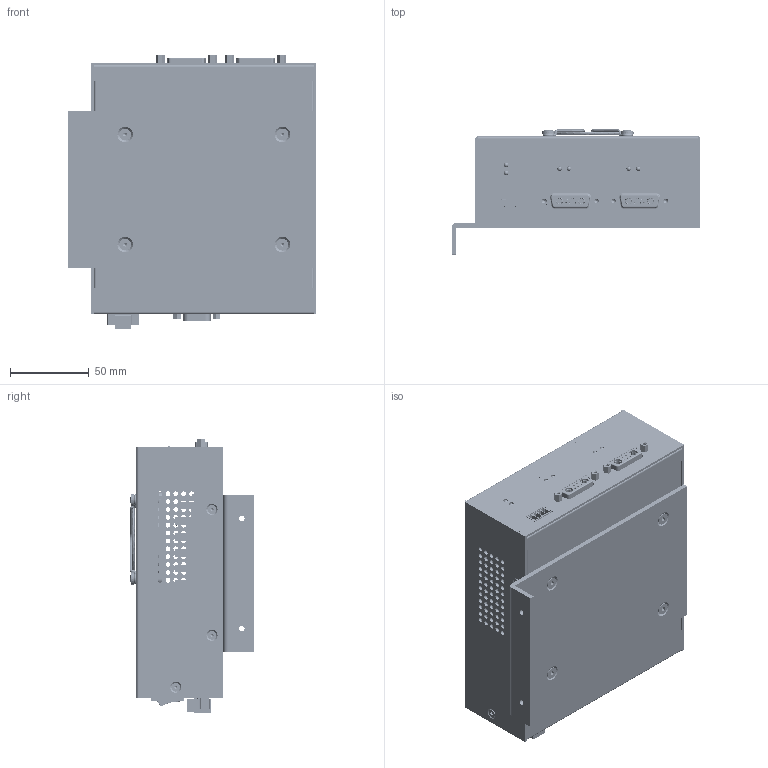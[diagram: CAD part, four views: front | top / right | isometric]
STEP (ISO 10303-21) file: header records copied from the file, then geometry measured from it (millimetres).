
FILE_DESCRIPTION (( 'STEP AP214' ), '1' );
FILE_NAME ('2P2S-200A.STEP', '2021-07-20T01:36:31', ( '' ), ( '' ), 'SwSTEP 2.0', 'SolidWorks 2020', '' );
FILE_SCHEMA (( 'AUTOMOTIVE_DESIGN' ));
Length unit declared in the file: millimetre
Products named in the file (38): 20020002h021b01lf; Fan-House_612FL_ebm-papst_612FL_ebm-papst; socket countersunk head screw_iso_ISO 10642 - M4 x 8 - 8N; ConnectorBolt; Fan_612FL_ebm-papst_612FL_ebm-papst; 1100-1007-01A_IP-2P2S-200A-HEATSINK BRKT; Rev1TopPCB; Rev12xRJ45 Modular Jack - TE Connectivity 5-6610000-1; Support8; PCB_dummy; Switch MIRS-101-2C Red_炳眇 砍盾眇看祇癸盼盹突; 1100-1004-01A_IP-2P2S-200A-BASE; Rev1SubPCB; 2P2S-200A; 1100-1009-01A_IP-2P2S-200A-HEAT SINK; Support15; 1100-1005-01A_IP-2P2S-200A-ALPLATE; 2P2S-200A_mainPCB_ass''y; 1100-1003-01A_IP-2P2S-200A-CASE; 2P2S-200A_LEDsPCB; User Library-60mm Fan Guard; binding cross head screw_ks_KS 1023 BC - M4 x 6-N; ALSRobot-TO-220-3; Support20; socket countersunk head screw_iso_ISO 10642 - M3 x 8 - 8N; 1100-1006-01A_IP-2P2S-200A-L BRKT; VCC - 553-0122 CBI 2POS Bi-Level LED; led_everlight_3mm_90_degrees_red_Valor predeterminado; sPCB_Ass''y; 395021004; User Library-da7w2s50da3d 7w2 d; led_everlight_3mm_90_degrees_green_Valor predeterminado; 395061004; 612FL_ebm-papst_612FL_ebm-papst; 20020111h021a01lf; Rev1DS1040-04RT; d-sub_9pin_right_angle_pcb; Rev1VCC - 553-0122 CBI 2POS Bi-Level LED
Assembly tree (66 placements, depth 3):
  2P2S-200A
    1100-1004-01A_IP-2P2S-200A-BASE
    1100-1003-01A_IP-2P2S-200A-CASE
    2P2S-200A_mainPCB_ass''y
      PCB_dummy
      d-sub_9pin_right_angle_pcb
      User Library-da7w2s50da3d 7w2 d  x2
      ConnectorBolt  x4
      395021004  x2
      20020002h021b01lf
      20020111h021a01lf
      ALSRobot-TO-220-3  x4
    Rev1SubPCB
      Rev1TopPCB
      Rev1DS1040-04RT
      Rev12xRJ45 Modular Jack - TE Connectivity 5-6610000-1
      Rev1VCC - 553-0122 CBI 2POS Bi-Level LED
      395061004
    612FL_ebm-papst_612FL_ebm-papst
      Fan-House_612FL_ebm-papst_612FL_ebm-papst
      Fan_612FL_ebm-papst_612FL_ebm-papst
    1100-1006-01A_IP-2P2S-200A-L BRKT
    1100-1009-01A_IP-2P2S-200A-HEAT SINK
    Support15  x2
    Switch MIRS-101-2C Red_炳眇 砍盾眇看祇癸盼盹突
    User Library-60mm Fan Guard
    sPCB_Ass''y
      2P2S-200A_LEDsPCB
      VCC - 553-0122 CBI 2POS Bi-Level LED
      led_everlight_3mm_90_degrees_green_Valor predeterminado  x2
      led_everlight_3mm_90_degrees_red_Valor predeterminado  x2
    socket countersunk head screw_iso_ISO 10642 - M3 x 8 - 8N  x8
    socket countersunk head screw_iso_ISO 10642 - M4 x 8 - 8N  x4
    binding cross head screw_ks_KS 1023 BC - M4 x 6-N  x4
    Support20  x2
    Support8  x5
    1100-1007-01A_IP-2P2S-200A-HEATSINK BRKT
    1100-1005-01A_IP-2P2S-200A-ALPLATE
Bounding box: 158 x 79.4 x 174.6 mm (x, y, z)
Volume: 357549.5 mm3; surface area: 383543.7 mm2
Topology: 121 solids, 121 shells, 9583 faces, 25155 edges, 16186 vertices
Faces by surface type: plane 5604, cylinder 1863, bspline 1528, cone 328, torus 164, sphere 96
Full cylindrical faces by diameter (mm): 2.5 x2
Entity records: 414895 total; most frequent: CARTESIAN_POINT 150392, ORIENTED_EDGE 44262, DIRECTION 35894, EDGE_CURVE 22131, VECTOR 14860, LINE 14860, VERTEX_POINT 14354, AXIS2_PLACEMENT_3D 10517
